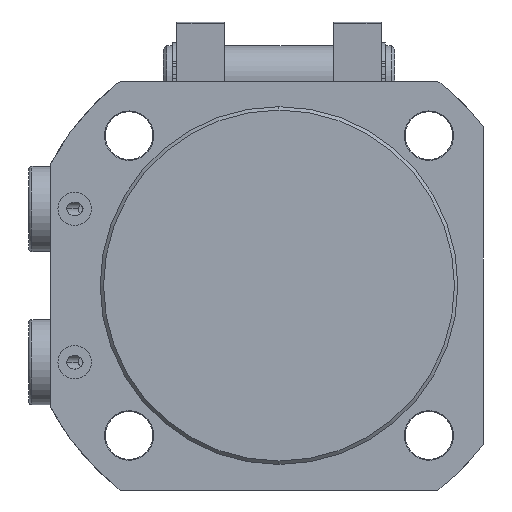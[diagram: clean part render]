
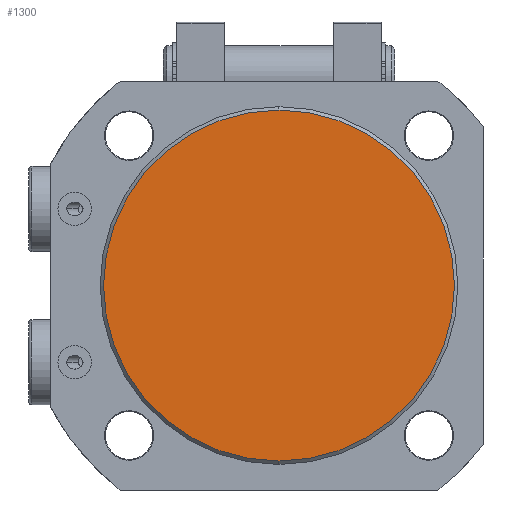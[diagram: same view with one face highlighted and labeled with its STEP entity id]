
A CAD part, front view. The second image highlights one B-rep face of the part: STEP entity #1300.
In plain terms, the highlighted planar face has unit normal (0, -1, 0).
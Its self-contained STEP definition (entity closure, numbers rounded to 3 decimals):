
#407 = AXIS2_PLACEMENT_3D ( 'NONE', #2938, #2958, #2858 ) ;
#1300 = ADVANCED_FACE ( 'NONE', ( #4372 ), #6231, .F. ) ;
#1717 = AXIS2_PLACEMENT_3D ( 'NONE', #3008, #7269, #3623 ) ;
#1766 = CIRCLE ( 'NONE', #1717, 51.5 ) ;
#2030 = EDGE_CURVE ( 'NONE', #4122, #6799, #3030, .T. ) ;
#2663 = AXIS2_PLACEMENT_3D ( 'NONE', #7596, #7570, #7533 ) ;
#2841 = EDGE_LOOP ( 'NONE', ( #4116, #5739 ) ) ;
#2858 = DIRECTION ( 'NONE',  ( 0., 0., 1. ) ) ;
#2938 = CARTESIAN_POINT ( 'NONE',  ( 0., 0., 0. ) ) ;
#2958 = DIRECTION ( 'NONE',  ( 0., 1., 0. ) ) ;
#3008 = CARTESIAN_POINT ( 'NONE',  ( 0., 0., 0. ) ) ;
#3030 = CIRCLE ( 'NONE', #2663, 51.5 ) ;
#3623 = DIRECTION ( 'NONE',  ( 0., 0., 1. ) ) ;
#3695 = CARTESIAN_POINT ( 'NONE',  ( 0., 0., -51.5 ) ) ;
#4116 = ORIENTED_EDGE ( 'NONE', *, *, #2030, .T. ) ;
#4122 = VERTEX_POINT ( 'NONE', #4854 ) ;
#4372 = FACE_OUTER_BOUND ( 'NONE', #2841, .T. ) ;
#4826 = EDGE_CURVE ( 'NONE', #6799, #4122, #1766, .T. ) ;
#4854 = CARTESIAN_POINT ( 'NONE',  ( 0., 0., 51.5 ) ) ;
#5739 = ORIENTED_EDGE ( 'NONE', *, *, #4826, .T. ) ;
#6231 = PLANE ( 'NONE',  #407 ) ;
#6799 = VERTEX_POINT ( 'NONE', #3695 ) ;
#7269 = DIRECTION ( 'NONE',  ( 0., -1., 0. ) ) ;
#7533 = DIRECTION ( 'NONE',  ( 0., 0., 1. ) ) ;
#7570 = DIRECTION ( 'NONE',  ( 0., -1., 0. ) ) ;
#7596 = CARTESIAN_POINT ( 'NONE',  ( 0., 0., 0. ) ) ;
